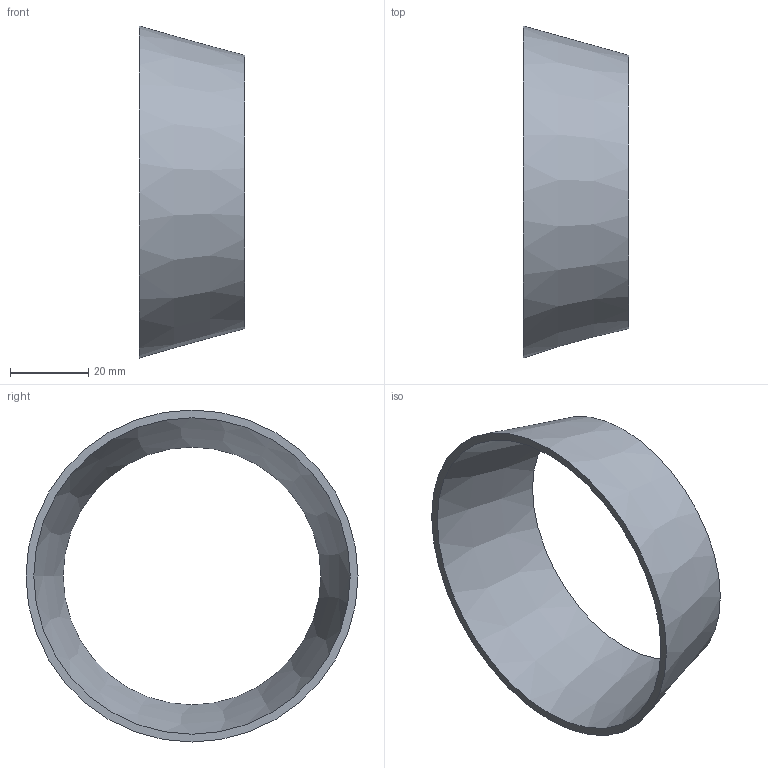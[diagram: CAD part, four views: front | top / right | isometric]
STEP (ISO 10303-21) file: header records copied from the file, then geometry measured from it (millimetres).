
FILE_DESCRIPTION(('FreeCAD Model'),'2;1');
FILE_NAME( '/home/martin/Documents/proyect/accesorios/stp/red-con_DN80-65.step', '2017-12-31T12:23:39',('Author'),(''), 'Open CASCADE STEP processor 6.8','FreeCAD','Unknown');
FILE_SCHEMA(('AUTOMOTIVE_DESIGN_CC2 { 1 2 10303 214 -1 1 5 4 }'));
Length unit declared in the file: millimetre
Products named in the file (1): red-con_DN80-65
Bounding box: 27 x 85 x 85 mm (x, y, z)
Volume: 12808.3 mm3; surface area: 14242 mm2
Topology: 1 solids, 1 shells, 4 faces, 6 edges, 4 vertices
Faces by surface type: cone 2, plane 2
Entity records: 191 total; most frequent: CARTESIAN_POINT 33, DIRECTION 26, ORIENTED_EDGE 12, PCURVE 12, DEFINITIONAL_REPRESENTATION 12, AXIS2_PLACEMENT_3D 9, CIRCLE 8, FACE_BOUND 6
